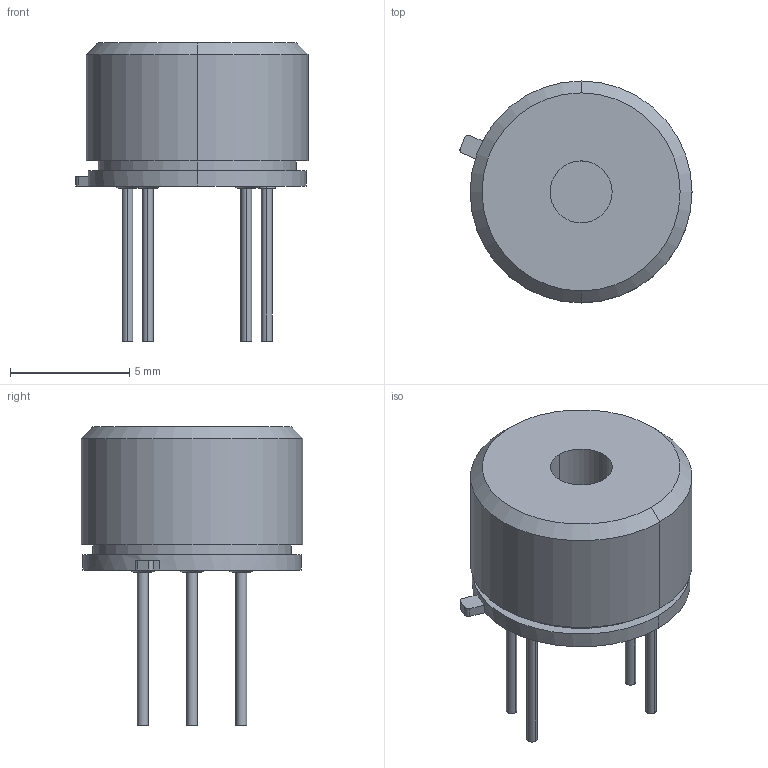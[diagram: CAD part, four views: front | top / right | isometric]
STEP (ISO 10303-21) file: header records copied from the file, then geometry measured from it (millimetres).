
FILE_DESCRIPTION (( 'STEP AP214' ), '1' );
FILE_NAME ('MLX90640ESF-BAA-000-TU.STEP', '2026-01-12T02:38:49', ( '' ), ( '' ), 'SwSTEP 2.0', 'SolidWorks 2021', '' );
FILE_SCHEMA (( 'AUTOMOTIVE_DESIGN' ));
Length unit declared in the file: millimetre
Products named in the file (1): MLX90640ESF-BAA-000-TU
Bounding box: 9.73 x 9.3 x 12.5 mm (x, y, z)
Volume: 391 mm3; surface area: 601.8 mm2
Topology: 9 solids, 9 shells, 60 faces, 115 edges, 76 vertices
Faces by surface type: cylinder 27, plane 25, cone 8
Entity records: 1836 total; most frequent: DIRECTION 307, CARTESIAN_POINT 252, ORIENTED_EDGE 230, AXIS2_PLACEMENT_3D 131, EDGE_CURVE 115, VERTEX_POINT 76, CIRCLE 70, EDGE_LOOP 69
